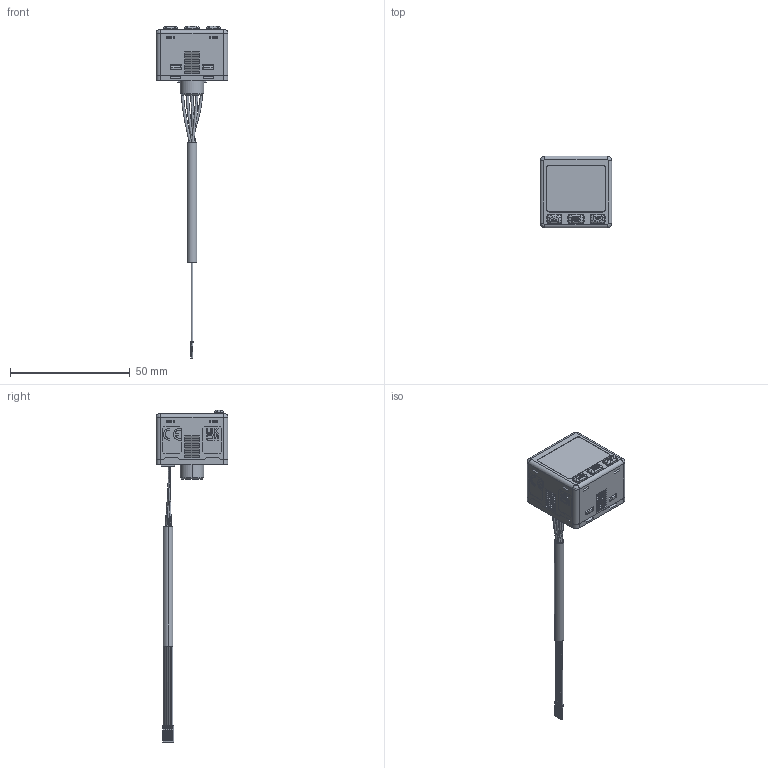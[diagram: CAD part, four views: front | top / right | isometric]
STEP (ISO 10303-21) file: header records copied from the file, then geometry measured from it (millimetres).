
FILE_DESCRIPTION((''),'2;1');
FILE_NAME('KP48-M5','2024-12-12T',('tommy'),(''),'CREO PARAMETRIC BY PTC INC, 2014500','CREO PARAMETRIC BY PTC INC, 2014500','');
FILE_SCHEMA(('CONFIG_CONTROL_DESIGN'));
Products named in the file (1): KP48-M5
Bounding box: 30 x 30 x 138.55 mm (x, y, z)
Volume: 8231.3 mm3; surface area: 14712.9 mm2
Topology: 1 solids, 1 shells, 2885 faces, 8266 edges, 5304 vertices
Faces by surface type: plane 1783, cylinder 550, bspline 245, extrusion 216, cone 91
Entity records: 132053 total; most frequent: CARTESIAN_POINT 59485, ORIENTED_EDGE 16464, DIRECTION 12883, EDGE_CURVE 8232, VECTOR 5669, LINE 5453, VERTEX_POINT 5304, AXIS2_PLACEMENT_3D 3607
